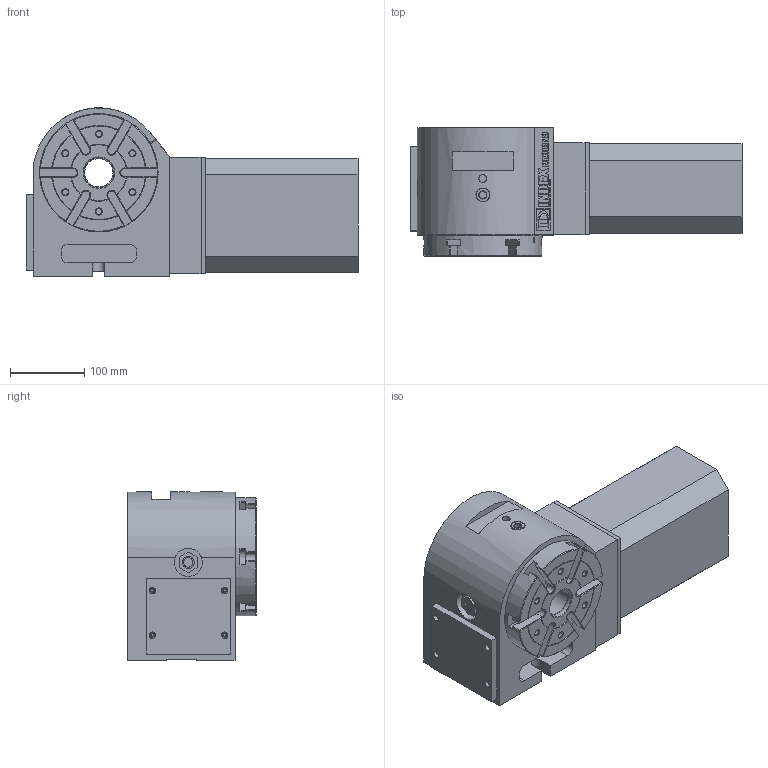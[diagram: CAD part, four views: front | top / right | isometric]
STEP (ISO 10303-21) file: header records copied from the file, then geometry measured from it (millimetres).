
FILE_DESCRIPTION(/* description */ ('','CAx-IF Rec.Pracs.---Representation and Presentation of Product Manufacturing Information (PMI)---4.0---2014-10-13'),/* implementation_level */ '2;1');
FILE_NAME(/* name */ 'VH-6 v8.step',/* time_stamp */ '2025-03-03T14:08:29-08:00',/* author */ (''),/* organization */ (''),/* preprocessor_version */ 'ST-DEVELOPER v20',/* originating_system */ 'Autodesk Translation Framework v13.20.0.188',/* authorisation */ '');
FILE_SCHEMA (('AP242_MANAGED_MODEL_BASED_3D_ENGINEERING_MIM_LF { 1 0 10303 442 1 1 4 }'));
Products named in the file (13): VH-6; VH-6_1; VH160RH1; Spindle Bearing; VH160RS1; VH160BP1; VH160WG1; 3277K14; Motor Block; Cover; 1072A23; 44605K234; VH160WCP1
Assembly tree (12 placements, depth 3):
  VH-6
    VH-6_1
      VH160RH1
      Spindle Bearing
      VH160RS1
      VH160BP1
      VH160WG1
      3277K14
      Motor Block
      Cover
      1072A23
      44605K234
    VH160WCP1
Bounding box: 448.63 x 173.32 x 227.33 mm (x, y, z)
Volume: 5765191.2 mm3; surface area: 985876.4 mm2
Topology: 37 solids, 37 shells, 1277 faces, 3089 edges, 2040 vertices
Faces by surface type: plane 685, cylinder 254, bspline 217, cone 116, torus 5
Full cylindrical faces by diameter (mm): 2.261 x4, 3.175 x1, 4.064 x12, 4.067 x24, 5.116 x6, 5.207 x4, 5.309 x4, 5.334 x18, 6.528 x10, 7.94 x6, 8.255 x6, 8.707 x2, 8.712 x4, 8.89 x12, 10.737 x5, 12.7 x1, 14.416 x1, 14.467 x1, 16.196 x1, 16.993 x2, 17.475 x3, 20.813 x1, 25.4 x1, 38.1 x1, 38.481 x1, 41.275 x1, 43.434 x1, 47.625 x1, 49.835 x1, 50.04 x1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
Entity records: 54788 total; most frequent: CARTESIAN_POINT 25181, ORIENTED_EDGE 6178, DIRECTION 5479, EDGE_CURVE 3089, VERTEX_POINT 2040, AXIS2_PLACEMENT_3D 1829, LINE 1821, VECTOR 1821
